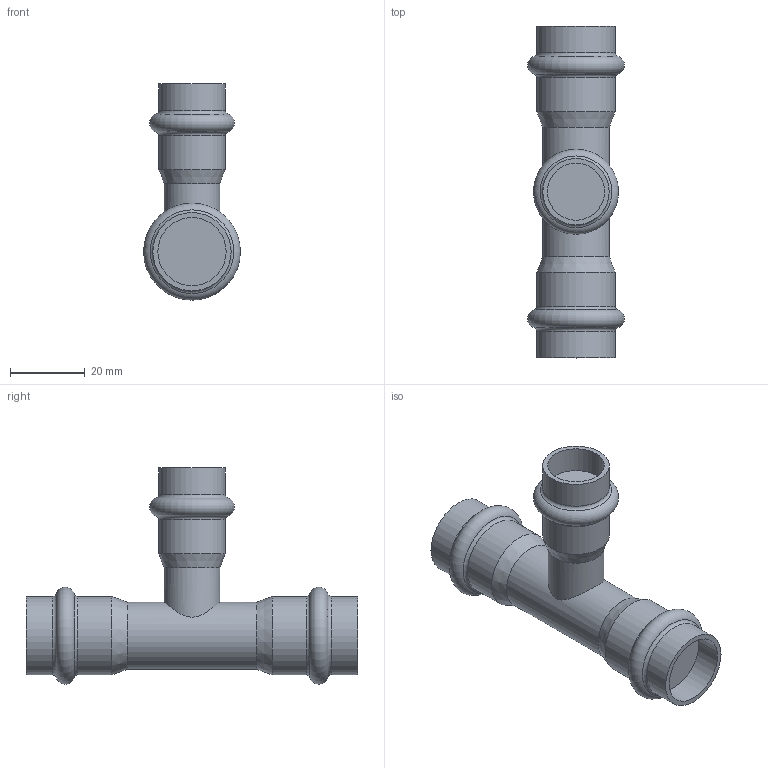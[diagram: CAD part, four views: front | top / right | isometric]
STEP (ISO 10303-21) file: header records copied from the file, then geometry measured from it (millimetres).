
FILE_DESCRIPTION(('STEP AP203'), '1');
FILE_NAME('VTi.931.I.181518', '', ('UNSPECIFIED'), ('UNSPECIFIED'), 'C3D Converter', 'C3D Toolkit', '');
FILE_SCHEMA(('CONFIG_CONTROL_DESIGN'));
Length unit declared in the file: millimetre
Bounding box: 25.98 x 89 x 57.99 mm (x, y, z)
Volume: 32571.1 mm3; surface area: 10124.4 mm2
Topology: 1 solids, 1 shells, 29 faces, 53 edges, 29 vertices
Faces by surface type: cylinder 11, torus 9, plane 6, cone 3
Full cylindrical faces by diameter (mm): 15 x1, 15.3 x1, 17.8 x2, 18 x1, 18.3 x2, 21 x4
Entity records: 861 total; most frequent: CARTESIAN_POINT 331, DIRECTION 114, ORIENTED_EDGE 58, AXIS2_PLACEMENT_3D 57, EDGE_LOOP 56, FACE_OUTER_BOUND 45, ADVANCED_FACE 29, EDGE_CURVE 29
